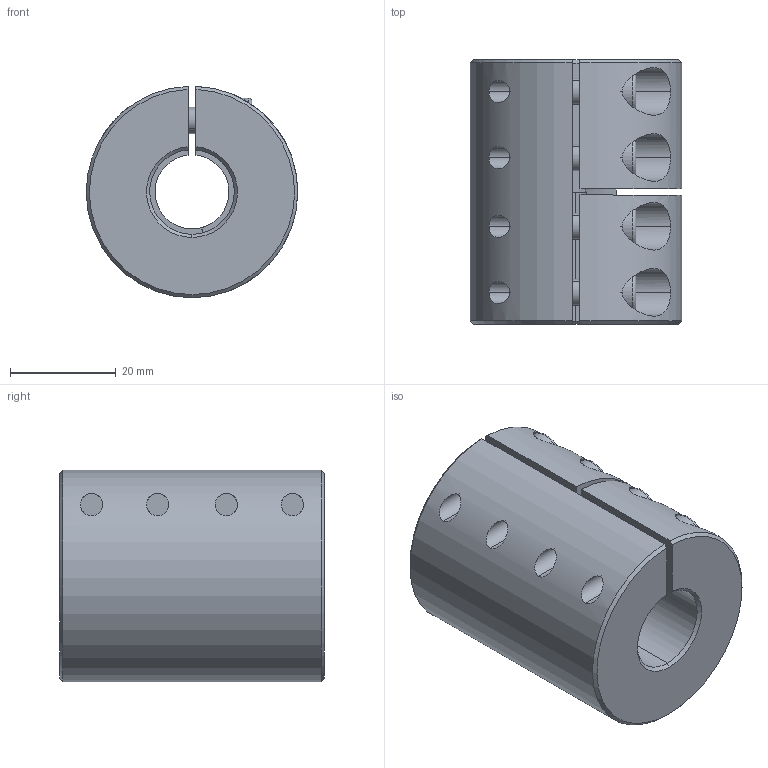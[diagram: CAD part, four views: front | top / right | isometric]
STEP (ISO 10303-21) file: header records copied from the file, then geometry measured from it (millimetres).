
FILE_DESCRIPTION (( 'STEP AP214' ), '1' );
FILE_NAME ('LL-B-D40L50-14-16½¨Ä£.STEP', '2022-07-22T00:24:09', ( '' ), ( '' ), 'SwSTEP 2.0', 'SolidWorks 2022', '' );
FILE_SCHEMA (( 'AUTOMOTIVE_DESIGN' ));
Length unit declared in the file: millimetre
Products named in the file (1): LL-B-D40L50-14-16膘耀
Bounding box: 40 x 50 x 39.99 mm (x, y, z)
Volume: 50972 mm3; surface area: 15295.1 mm2
Topology: 1 solids, 1 shells, 176 faces, 444 edges, 278 vertices
Faces by surface type: plane 84, cylinder 70, cone 14, torus 8
Entity records: 5801 total; most frequent: CARTESIAN_POINT 1475, DIRECTION 941, ORIENTED_EDGE 872, EDGE_CURVE 436, AXIS2_PLACEMENT_3D 368, VERTEX_POINT 278, EDGE_LOOP 208, LINE 205
